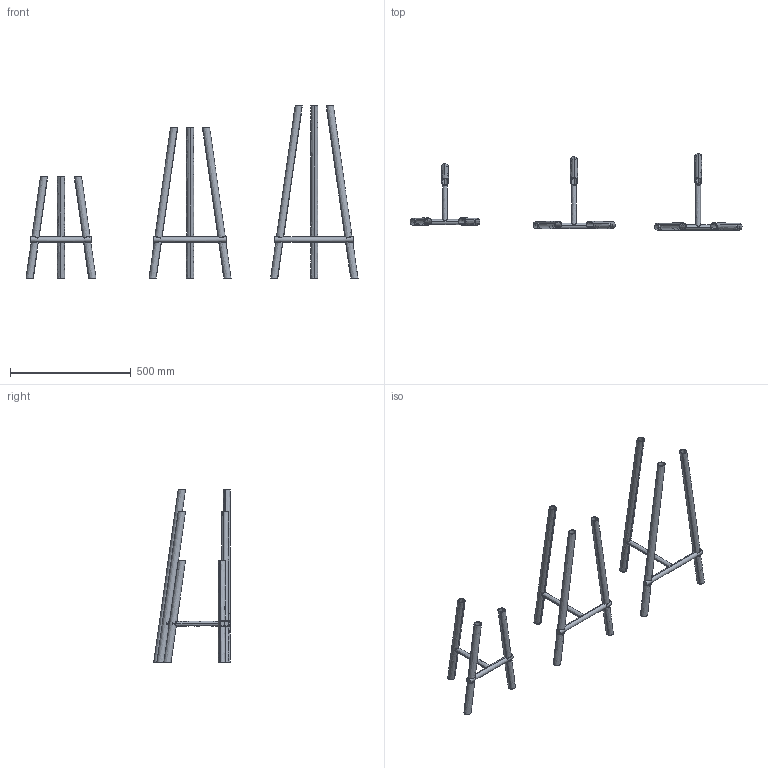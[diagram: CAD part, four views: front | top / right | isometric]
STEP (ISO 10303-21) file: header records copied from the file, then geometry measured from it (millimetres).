
FILE_DESCRIPTION(/* description */ (''),/* implementation_level */ '2;1');
FILE_NAME(/* name */ 'Gambe 3d',/* time_stamp */ '2012-02-19T14:08:32+01:00',/* author */ (''),/* organization */ (''),/* preprocessor_version */ 'ST-DEVELOPER v10',/* originating_system */ '',/* authorisation */ '');
FILE_SCHEMA (('CONFIG_CONTROL_DESIGN'));
Length unit declared in the file: millimetre
Products named in the file (1): 1
Bounding box: 1377.43 x 318.2 x 715 mm (x, y, z)
Volume: 1481382.1 mm3; surface area: 1042180.7 mm2
Topology: 15 solids, 15 shells, 92 faces, 196 edges, 134 vertices
Faces by surface type: bspline 92
Entity records: 5669 total; most frequent: CARTESIAN_POINT 4333, ORIENTED_EDGE 392, EDGE_CURVE 196, VERTEX_POINT 134, EDGE_LOOP 128, B_SPLINE_CURVE_WITH_KNOTS 122, ADVANCED_FACE 92, FACE_OUTER_BOUND 92
